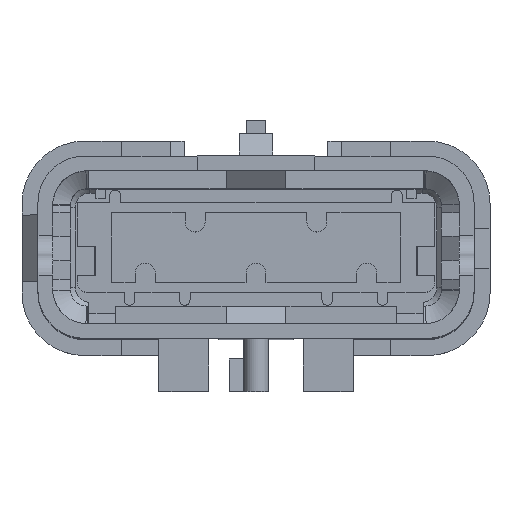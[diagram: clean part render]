
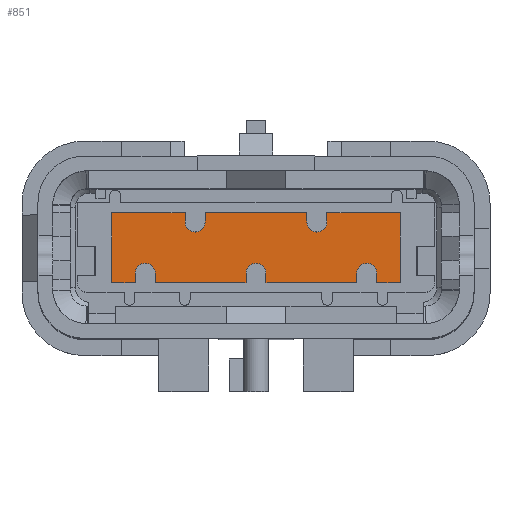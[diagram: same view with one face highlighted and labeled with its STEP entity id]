
A CAD part, top view. The second image highlights one B-rep face of the part: STEP entity #851.
In plain terms, the highlighted planar face has unit normal (0, 0, 1).
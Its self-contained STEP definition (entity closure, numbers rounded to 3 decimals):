
#344=FACE_OUTER_BOUND('',#1759,.T.);
#851=ADVANCED_FACE('',(#344),#1358,.T.);
#1358=PLANE('',#10221);
#1759=EDGE_LOOP('',(#2685,#2686,#2687,#2688,#2689,#2690,#2691,#2692,#2693,
#2694,#2695,#2696,#2697,#2698,#2699,#2700,#2701,#2702,#2703,#2704,#2705,
#2706,#2707,#2708));
#2260=CIRCLE('',#10192,0.75);
#2274=CIRCLE('',#10217,0.75);
#2275=CIRCLE('',#10218,0.75);
#2276=CIRCLE('',#10219,0.75);
#2277=CIRCLE('',#10220,0.75);
#2685=ORIENTED_EDGE('',*,*,#6462,.F.);
#2686=ORIENTED_EDGE('',*,*,#6547,.F.);
#2687=ORIENTED_EDGE('',*,*,#6548,.F.);
#2688=ORIENTED_EDGE('',*,*,#6549,.T.);
#2689=ORIENTED_EDGE('',*,*,#6550,.F.);
#2690=ORIENTED_EDGE('',*,*,#6551,.F.);
#2691=ORIENTED_EDGE('',*,*,#6552,.F.);
#2692=ORIENTED_EDGE('',*,*,#6553,.F.);
#2693=ORIENTED_EDGE('',*,*,#6554,.F.);
#2694=ORIENTED_EDGE('',*,*,#6555,.T.);
#2695=ORIENTED_EDGE('',*,*,#6556,.F.);
#2696=ORIENTED_EDGE('',*,*,#6557,.F.);
#2697=ORIENTED_EDGE('',*,*,#6558,.F.);
#2698=ORIENTED_EDGE('',*,*,#6559,.T.);
#2699=ORIENTED_EDGE('',*,*,#6560,.F.);
#2700=ORIENTED_EDGE('',*,*,#6561,.F.);
#2701=ORIENTED_EDGE('',*,*,#6464,.F.);
#2702=ORIENTED_EDGE('',*,*,#6562,.T.);
#2703=ORIENTED_EDGE('',*,*,#6563,.F.);
#2704=ORIENTED_EDGE('',*,*,#6564,.F.);
#2705=ORIENTED_EDGE('',*,*,#6565,.F.);
#2706=ORIENTED_EDGE('',*,*,#6566,.F.);
#2707=ORIENTED_EDGE('',*,*,#6567,.F.);
#2708=ORIENTED_EDGE('',*,*,#6568,.T.);
#5503=VERTEX_POINT('',#13813);
#5504=VERTEX_POINT('',#13815);
#5505=VERTEX_POINT('',#13819);
#5506=VERTEX_POINT('',#13820);
#5577=VERTEX_POINT('',#13983);
#5578=VERTEX_POINT('',#13985);
#5579=VERTEX_POINT('',#13987);
#5580=VERTEX_POINT('',#13989);
#5581=VERTEX_POINT('',#13991);
#5582=VERTEX_POINT('',#13993);
#5583=VERTEX_POINT('',#13995);
#5584=VERTEX_POINT('',#13997);
#5585=VERTEX_POINT('',#13999);
#5586=VERTEX_POINT('',#14001);
#5587=VERTEX_POINT('',#14003);
#5588=VERTEX_POINT('',#14005);
#5589=VERTEX_POINT('',#14007);
#5590=VERTEX_POINT('',#14009);
#5591=VERTEX_POINT('',#14012);
#5592=VERTEX_POINT('',#14014);
#5593=VERTEX_POINT('',#14016);
#5594=VERTEX_POINT('',#14018);
#5595=VERTEX_POINT('',#14020);
#5596=VERTEX_POINT('',#14022);
#6462=EDGE_CURVE('',#5503,#5504,#2260,.T.);
#6464=EDGE_CURVE('',#5505,#5506,#7915,.T.);
#6547=EDGE_CURVE('',#5577,#5503,#7984,.T.);
#6548=EDGE_CURVE('',#5578,#5577,#7985,.T.);
#6549=EDGE_CURVE('',#5578,#5579,#7986,.T.);
#6550=EDGE_CURVE('',#5580,#5579,#2274,.T.);
#6551=EDGE_CURVE('',#5581,#5580,#7987,.T.);
#6552=EDGE_CURVE('',#5582,#5581,#7988,.T.);
#6553=EDGE_CURVE('',#5583,#5582,#7989,.T.);
#6554=EDGE_CURVE('',#5584,#5583,#7990,.T.);
#6555=EDGE_CURVE('',#5584,#5585,#7991,.T.);
#6556=EDGE_CURVE('',#5586,#5585,#2275,.T.);
#6557=EDGE_CURVE('',#5587,#5586,#7992,.T.);
#6558=EDGE_CURVE('',#5588,#5587,#7993,.T.);
#6559=EDGE_CURVE('',#5588,#5589,#7994,.T.);
#6560=EDGE_CURVE('',#5590,#5589,#2276,.T.);
#6561=EDGE_CURVE('',#5506,#5590,#7995,.T.);
#6562=EDGE_CURVE('',#5505,#5591,#7996,.T.);
#6563=EDGE_CURVE('',#5592,#5591,#2277,.T.);
#6564=EDGE_CURVE('',#5593,#5592,#7997,.T.);
#6565=EDGE_CURVE('',#5594,#5593,#7998,.T.);
#6566=EDGE_CURVE('',#5595,#5594,#7999,.T.);
#6567=EDGE_CURVE('',#5596,#5595,#8000,.T.);
#6568=EDGE_CURVE('',#5596,#5504,#8001,.T.);
#7915=LINE('',#13818,#9097);
#7984=LINE('',#13982,#9166);
#7985=LINE('',#13984,#9167);
#7986=LINE('',#13986,#9168);
#7987=LINE('',#13990,#9169);
#7988=LINE('',#13992,#9170);
#7989=LINE('',#13994,#9171);
#7990=LINE('',#13996,#9172);
#7991=LINE('',#13998,#9173);
#7992=LINE('',#14002,#9174);
#7993=LINE('',#14004,#9175);
#7994=LINE('',#14006,#9176);
#7995=LINE('',#14010,#9177);
#7996=LINE('',#14011,#9178);
#7997=LINE('',#14015,#9179);
#7998=LINE('',#14017,#9180);
#7999=LINE('',#14019,#9181);
#8000=LINE('',#14021,#9182);
#8001=LINE('',#14023,#9183);
#9097=VECTOR('',#11066,1.);
#9166=VECTOR('',#11181,1.);
#9167=VECTOR('',#11182,1.);
#9168=VECTOR('',#11183,1.);
#9169=VECTOR('',#11186,1.);
#9170=VECTOR('',#11187,1.);
#9171=VECTOR('',#11188,1.);
#9172=VECTOR('',#11189,1.);
#9173=VECTOR('',#11190,1.);
#9174=VECTOR('',#11193,1.);
#9175=VECTOR('',#11194,1.);
#9176=VECTOR('',#11195,1.);
#9177=VECTOR('',#11198,1.);
#9178=VECTOR('',#11199,1.);
#9179=VECTOR('',#11202,1.);
#9180=VECTOR('',#11203,1.);
#9181=VECTOR('',#11204,1.);
#9182=VECTOR('',#11205,1.);
#9183=VECTOR('',#11206,1.);
#10192=AXIS2_PLACEMENT_3D('',#13814,#11061,#11062);
#10217=AXIS2_PLACEMENT_3D('',#13988,#11184,#11185);
#10218=AXIS2_PLACEMENT_3D('',#14000,#11191,#11192);
#10219=AXIS2_PLACEMENT_3D('',#14008,#11196,#11197);
#10220=AXIS2_PLACEMENT_3D('',#14013,#11200,#11201);
#10221=AXIS2_PLACEMENT_3D('',#14024,#11207,#11208);
#11061=DIRECTION('',(0.,0.,1.));
#11062=DIRECTION('',(-1.,0.,0.));
#11066=DIRECTION('',(-1.,0.,0.));
#11181=DIRECTION('',(0.,-1.,0.));
#11182=DIRECTION('',(1.,0.,0.));
#11183=DIRECTION('',(0.,-1.,0.));
#11184=DIRECTION('',(0.,0.,1.));
#11185=DIRECTION('',(-1.,0.,0.));
#11186=DIRECTION('',(0.,-1.,0.));
#11187=DIRECTION('',(1.,0.,0.));
#11188=DIRECTION('',(0.,1.,0.));
#11189=DIRECTION('',(-1.,0.,0.));
#11190=DIRECTION('',(0.,1.,0.));
#11191=DIRECTION('',(0.,0.,1.));
#11192=DIRECTION('',(1.,0.,0.));
#11193=DIRECTION('',(0.,1.,0.));
#11194=DIRECTION('',(-1.,0.,0.));
#11195=DIRECTION('',(0.,1.,0.));
#11196=DIRECTION('',(0.,0.,1.));
#11197=DIRECTION('',(1.,0.,0.));
#11198=DIRECTION('',(0.,1.,0.));
#11199=DIRECTION('',(0.,1.,0.));
#11200=DIRECTION('',(0.,0.,1.));
#11201=DIRECTION('',(1.,0.,0.));
#11202=DIRECTION('',(0.,1.,0.));
#11203=DIRECTION('',(-1.,0.,0.));
#11204=DIRECTION('',(0.,-1.,0.));
#11205=DIRECTION('',(1.,0.,0.));
#11206=DIRECTION('',(0.,-1.,0.));
#11207=DIRECTION('',(0.,0.,1.));
#11208=DIRECTION('',(1.,0.,0.));
#13813=CARTESIAN_POINT('',(3.825,1.925,1.1));
#13814=CARTESIAN_POINT('',(4.575,1.925,1.1));
#13815=CARTESIAN_POINT('',(5.325,1.925,1.1));
#13818=CARTESIAN_POINT('',(7.565,-2.625,1.1));
#13819=CARTESIAN_POINT('',(7.565,-2.625,1.1));
#13820=CARTESIAN_POINT('',(0.75,-2.625,1.1));
#13982=CARTESIAN_POINT('',(3.825,2.625,1.1));
#13983=CARTESIAN_POINT('',(3.825,2.625,1.1));
#13984=CARTESIAN_POINT('',(-3.825,2.625,1.1));
#13985=CARTESIAN_POINT('',(-3.825,2.625,1.1));
#13986=CARTESIAN_POINT('',(-3.825,2.625,1.1));
#13987=CARTESIAN_POINT('',(-3.825,1.925,1.1));
#13988=CARTESIAN_POINT('',(-4.575,1.925,1.1));
#13989=CARTESIAN_POINT('',(-5.325,1.925,1.1));
#13990=CARTESIAN_POINT('',(-5.325,2.625,1.1));
#13991=CARTESIAN_POINT('',(-5.325,2.625,1.1));
#13992=CARTESIAN_POINT('',(-10.83,2.625,1.1));
#13993=CARTESIAN_POINT('',(-10.83,2.625,1.1));
#13994=CARTESIAN_POINT('',(-10.83,0.5,1.1));
#13995=CARTESIAN_POINT('',(-10.83,-2.625,1.1));
#13996=CARTESIAN_POINT('',(-9.065,-2.625,1.1));
#13997=CARTESIAN_POINT('',(-9.065,-2.625,1.1));
#13998=CARTESIAN_POINT('',(-9.065,-2.625,1.1));
#13999=CARTESIAN_POINT('',(-9.065,-1.925,1.1));
#14000=CARTESIAN_POINT('',(-8.315,-1.925,1.1));
#14001=CARTESIAN_POINT('',(-7.565,-1.925,1.1));
#14002=CARTESIAN_POINT('',(-7.565,-2.625,1.1));
#14003=CARTESIAN_POINT('',(-7.565,-2.625,1.1));
#14004=CARTESIAN_POINT('',(-0.75,-2.625,1.1));
#14005=CARTESIAN_POINT('',(-0.75,-2.625,1.1));
#14006=CARTESIAN_POINT('',(-0.75,-2.625,1.1));
#14007=CARTESIAN_POINT('',(-0.75,-1.925,1.1));
#14008=CARTESIAN_POINT('',(0.,-1.925,1.1));
#14009=CARTESIAN_POINT('',(0.75,-1.925,1.1));
#14010=CARTESIAN_POINT('',(0.75,-2.625,1.1));
#14011=CARTESIAN_POINT('',(7.565,-2.625,1.1));
#14012=CARTESIAN_POINT('',(7.565,-1.925,1.1));
#14013=CARTESIAN_POINT('',(8.315,-1.925,1.1));
#14014=CARTESIAN_POINT('',(9.065,-1.925,1.1));
#14015=CARTESIAN_POINT('',(9.065,-2.625,1.1));
#14016=CARTESIAN_POINT('',(9.065,-2.625,1.1));
#14017=CARTESIAN_POINT('',(10.83,-2.625,1.1));
#14018=CARTESIAN_POINT('',(10.83,-2.625,1.1));
#14019=CARTESIAN_POINT('',(10.83,-0.5,1.1));
#14020=CARTESIAN_POINT('',(10.83,2.625,1.1));
#14021=CARTESIAN_POINT('',(5.325,2.625,1.1));
#14022=CARTESIAN_POINT('',(5.325,2.625,1.1));
#14023=CARTESIAN_POINT('',(5.325,2.625,1.1));
#14024=CARTESIAN_POINT('',(-12.996,-3.15,1.1));
